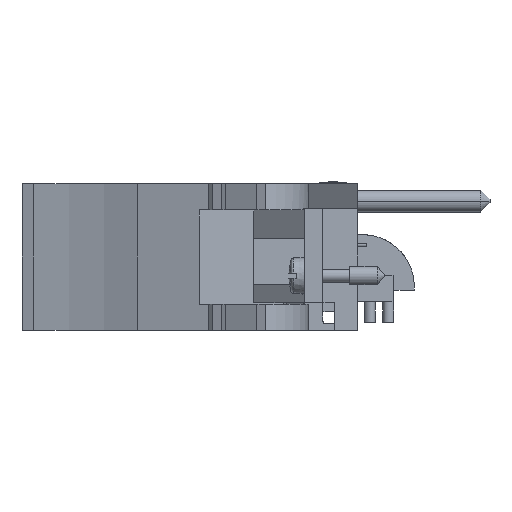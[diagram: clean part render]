
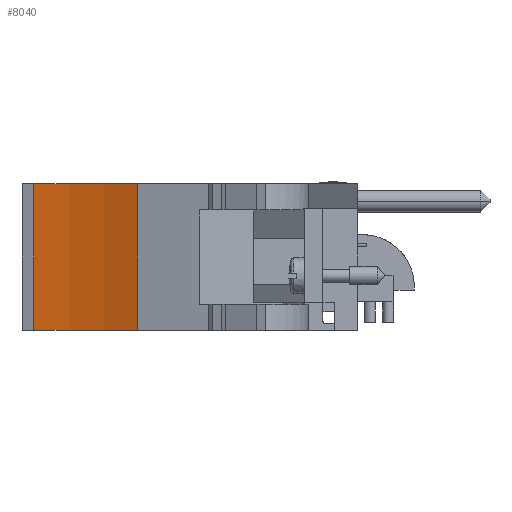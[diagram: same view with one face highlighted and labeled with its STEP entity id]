
A CAD part, front view. The second image highlights one B-rep face of the part: STEP entity #8040.
In plain terms, the highlighted cylindrical face has radius 51.46 mm (diameter 102.919 mm), a partial arc.
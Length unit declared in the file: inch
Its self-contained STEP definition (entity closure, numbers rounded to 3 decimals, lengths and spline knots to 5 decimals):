
#1644=CARTESIAN_POINT('',(-5.43694,-2.33143,0.634));
#1645=DIRECTION('',(0.,0.,1.));
#1646=DIRECTION('',(0.435,0.9,0.));
#1647=AXIS2_PLACEMENT_3D('',#1644,#1645,#1646);
#2114=CARTESIAN_POINT('',(-5.43694,-2.33143,-0.154));
#2115=DIRECTION('',(0.,0.,1.));
#2116=DIRECTION('',(0.435,0.9,0.));
#2117=AXIS2_PLACEMENT_3D('',#2114,#2115,#2116);
#2332=DIRECTION('',(0.,0.,1.));
#2333=VECTOR('',#2332,0.788);
#2334=CARTESIAN_POINT('',(-5.11361,-0.33143,-0.154));
#2335=LINE('',#2334,#2333);
#2340=DIRECTION('',(0.,0.,1.));
#2341=VECTOR('',#2340,0.788);
#2342=CARTESIAN_POINT('',(-4.55564,-0.50719,-0.154));
#2343=LINE('',#2342,#2341);
#4602=CARTESIAN_POINT('',(-4.55564,-0.50719,-0.154));
#4603=CARTESIAN_POINT('',(-5.11361,-0.33143,-0.154));
#4604=VERTEX_POINT('',#4602);
#4605=VERTEX_POINT('',#4603);
#4606=CARTESIAN_POINT('',(-4.55564,-0.50719,0.634));
#4607=CARTESIAN_POINT('',(-5.11361,-0.33143,0.634));
#4608=VERTEX_POINT('',#4606);
#4609=VERTEX_POINT('',#4607);
#8028=CARTESIAN_POINT('',(-5.43694,-2.33143,0.634));
#8029=DIRECTION('',(0.,0.,1.));
#8030=DIRECTION('',(0.,1.,0.));
#8031=AXIS2_PLACEMENT_3D('',#8028,#8029,#8030);
#8032=CYLINDRICAL_SURFACE('',#8031,2.02597);
#8033=ORIENTED_EDGE('',*,*,#7746,.T.);
#8034=ORIENTED_EDGE('',*,*,#8020,.T.);
#8035=ORIENTED_EDGE('',*,*,#7181,.F.);
#8037=ORIENTED_EDGE('',*,*,#8036,.F.);
#8038=EDGE_LOOP('',(#8033,#8034,#8035,#8037));
#8039=FACE_OUTER_BOUND('',#8038,.F.);
#8040=ADVANCED_FACE('',(#8039),#8032,.F.);
#1648=CIRCLE('',#1647,2.02597);
#2118=CIRCLE('',#2117,2.02597);
#7181=EDGE_CURVE('',#4608,#4609,#1648,.T.);
#7746=EDGE_CURVE('',#4604,#4605,#2118,.T.);
#8020=EDGE_CURVE('',#4605,#4609,#2335,.T.);
#8036=EDGE_CURVE('',#4604,#4608,#2343,.T.);
